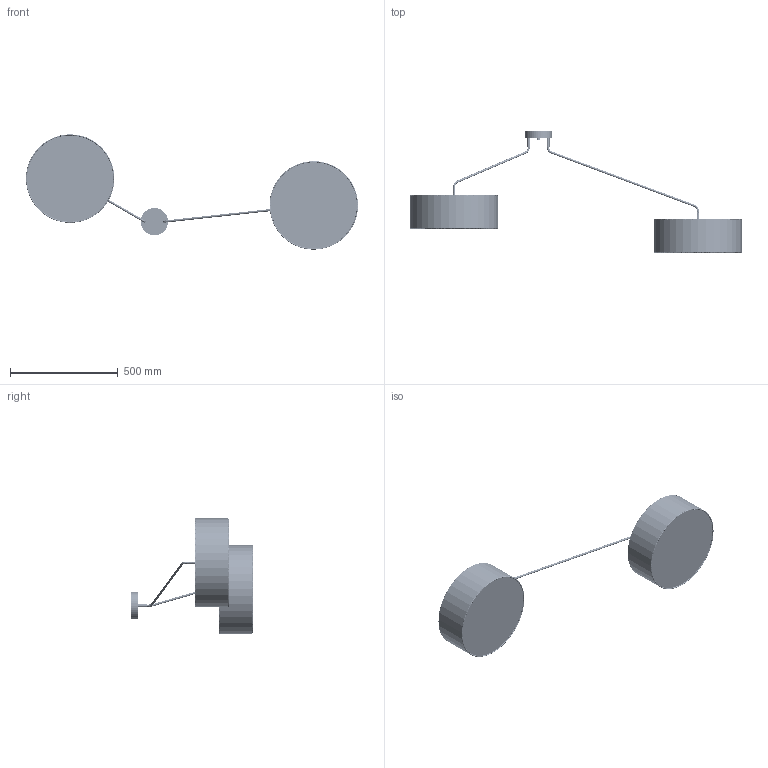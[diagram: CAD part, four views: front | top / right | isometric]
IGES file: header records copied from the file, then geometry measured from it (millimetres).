
Start section: SolidWorks IGES file using analytic representation for surfaces
Global section: file name: Z:\Modele 3D_WWW\_KOLEKCJE_WWW\FALCON-7950-7948-7951\FALCON-7950-7948-7951.IGS; native system: SolidWorks 2021; preprocessor: SolidWorks 2021; author: gabriela.tworek; date: 210816.145207; units: millimetre
Bounding box: 1543.09 x 563.49 x 535.53 mm (x, y, z)
Surface area: 1859605 mm2 (no closed solid volume)
Topology: 0 solids, 0 shells, 2054 faces, 34371 edges, 34371 vertices
Faces by surface type: bspline 1147, revolution 907
